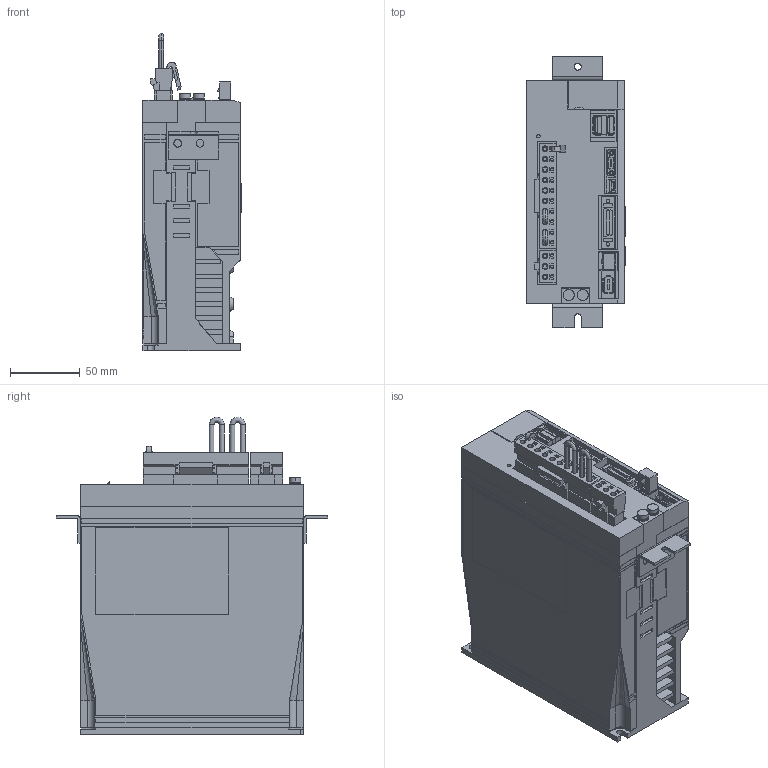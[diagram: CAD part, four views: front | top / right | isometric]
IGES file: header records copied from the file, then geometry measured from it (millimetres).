
Start section: SolidWorks IGES file using analytic representation for surfaces
Global section: file name: C:\YASKAWA\sgdv_5r5a1_a001.IGS; native system: SolidWorks 2006 by SolidWorks Corporation; preprocessor: SolidWorks 2006 by SolidWorks Corporation; author: yamanouchi; date: 090113.091658; units: millimetre
Bounding box: 70.5 x 195 x 228 mm (x, y, z)
Surface area: 171559.9 mm2 (no closed solid volume)
Topology: 0 solids, 0 shells, 1994 faces, 16208 edges, 16207 vertices
Faces by surface type: bspline 1756, revolution 238
